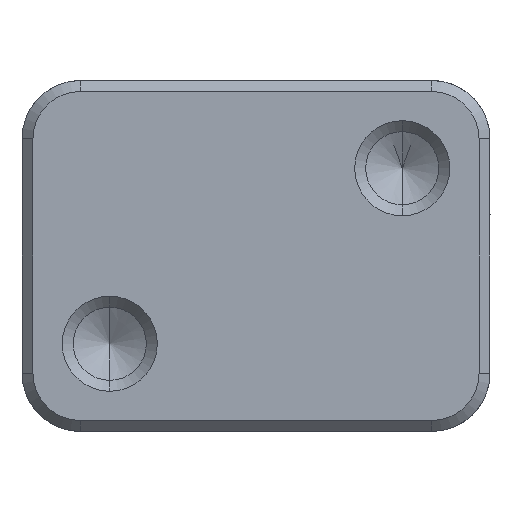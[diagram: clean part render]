
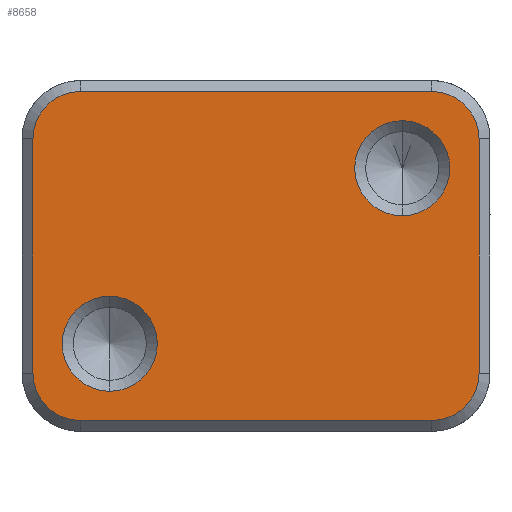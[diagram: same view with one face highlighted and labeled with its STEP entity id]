
A CAD part, front view. The second image highlights one B-rep face of the part: STEP entity #8658.
In plain terms, the highlighted planar face has unit normal (0, -1, 0).
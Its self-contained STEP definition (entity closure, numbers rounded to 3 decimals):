
#332 = CIRCLE ( 'NONE', #8281, 3.25 ) ;
#339 = EDGE_CURVE ( 'NONE', #8744, #4176, #7940, .T. ) ;
#378 = VERTEX_POINT ( 'NONE', #8139 ) ;
#768 = FACE_OUTER_BOUND ( 'NONE', #4568, .T. ) ;
#775 = AXIS2_PLACEMENT_3D ( 'NONE', #13131, #8292, #4944 ) ;
#778 = ORIENTED_EDGE ( 'NONE', *, *, #10677, .T. ) ;
#966 = DIRECTION ( 'NONE',  ( 0., -1., 0. ) ) ;
#987 = AXIS2_PLACEMENT_3D ( 'NONE', #7156, #13208, #12064 ) ;
#1023 = ORIENTED_EDGE ( 'NONE', *, *, #12797, .F. ) ;
#1318 = ORIENTED_EDGE ( 'NONE', *, *, #7060, .T. ) ;
#1371 = VERTEX_POINT ( 'NONE', #9253 ) ;
#1410 = VECTOR ( 'NONE', #12435, 1000. ) ;
#1660 = VERTEX_POINT ( 'NONE', #8971 ) ;
#1698 = EDGE_CURVE ( 'NONE', #1371, #5550, #9986, .T. ) ;
#1770 = VERTEX_POINT ( 'NONE', #4887 ) ;
#1799 = CARTESIAN_POINT ( 'NONE',  ( 10., 0., 9.245 ) ) ;
#1829 = VECTOR ( 'NONE', #8480, 1000. ) ;
#1840 = VECTOR ( 'NONE', #7477, 1000. ) ;
#1928 = DIRECTION ( 'NONE',  ( 0., 1., 0. ) ) ;
#1988 = EDGE_CURVE ( 'NONE', #1660, #4949, #8678, .T. ) ;
#2245 = CIRCLE ( 'NONE', #13177, 3.25 ) ;
#2248 = LINE ( 'NONE', #4395, #1829 ) ;
#2319 = CARTESIAN_POINT ( 'NONE',  ( 15.25, 0., -12.006 ) ) ;
#2333 = VERTEX_POINT ( 'NONE', #4199 ) ;
#2336 = ORIENTED_EDGE ( 'NONE', *, *, #11011, .F. ) ;
#2397 = CARTESIAN_POINT ( 'NONE',  ( 12., 0., 11.245 ) ) ;
#2455 = DIRECTION ( 'NONE',  ( 0., 0., 1. ) ) ;
#2734 = ORIENTED_EDGE ( 'NONE', *, *, #8275, .T. ) ;
#3436 = ORIENTED_EDGE ( 'NONE', *, *, #12772, .T. ) ;
#3847 = CARTESIAN_POINT ( 'NONE',  ( 12., 0., -11.256 ) ) ;
#3861 = DIRECTION ( 'NONE',  ( 0., -1., 0. ) ) ;
#4176 = VERTEX_POINT ( 'NONE', #2397 ) ;
#4199 = CARTESIAN_POINT ( 'NONE',  ( -10., 0., -2.756 ) ) ;
#4225 = CARTESIAN_POINT ( 'NONE',  ( -15.25, 0., -12.006 ) ) ;
#4381 = CIRCLE ( 'NONE', #6093, 3.25 ) ;
#4395 = CARTESIAN_POINT ( 'NONE',  ( -16., 0., -11.256 ) ) ;
#4568 = EDGE_LOOP ( 'NONE', ( #7560, #7494, #2336, #1023, #3436, #8953, #10039, #2734 ) ) ;
#4618 = AXIS2_PLACEMENT_3D ( 'NONE', #10392, #1928, #5157 ) ;
#4887 = CARTESIAN_POINT ( 'NONE',  ( -10., 0., -9.256 ) ) ;
#4944 = DIRECTION ( 'NONE',  ( 0., 0., -1. ) ) ;
#4949 = VERTEX_POINT ( 'NONE', #1799 ) ;
#5157 = DIRECTION ( 'NONE',  ( 0., 0., -1. ) ) ;
#5278 = DIRECTION ( 'NONE',  ( 0., 1., 0. ) ) ;
#5342 = LINE ( 'NONE', #2319, #1840 ) ;
#5550 = VERTEX_POINT ( 'NONE', #10973 ) ;
#5861 = DIRECTION ( 'NONE',  ( 1., 0., 0. ) ) ;
#6072 = CARTESIAN_POINT ( 'NONE',  ( 15.25, 0., 7.995 ) ) ;
#6093 = AXIS2_PLACEMENT_3D ( 'NONE', #13143, #10261, #7966 ) ;
#6478 = CARTESIAN_POINT ( 'NONE',  ( 12., 0., -8.006 ) ) ;
#6561 = VERTEX_POINT ( 'NONE', #13287 ) ;
#6746 = EDGE_CURVE ( 'NONE', #4176, #6561, #11311, .T. ) ;
#6752 = AXIS2_PLACEMENT_3D ( 'NONE', #6875, #3861, #5861 ) ;
#6811 = FACE_BOUND ( 'NONE', #6872, .T. ) ;
#6872 = EDGE_LOOP ( 'NONE', ( #10467, #778 ) ) ;
#6875 = CARTESIAN_POINT ( 'NONE',  ( -16., 0., -12.006 ) ) ;
#7060 = EDGE_CURVE ( 'NONE', #1770, #2333, #10640, .T. ) ;
#7093 = DIRECTION ( 'NONE',  ( 0., -1., 0. ) ) ;
#7156 = CARTESIAN_POINT ( 'NONE',  ( -12., 0., -8.006 ) ) ;
#7200 = CARTESIAN_POINT ( 'NONE',  ( 12., 0., 7.995 ) ) ;
#7205 = CARTESIAN_POINT ( 'NONE',  ( -16., 0., 11.245 ) ) ;
#7329 = DIRECTION ( 'NONE',  ( 0., 0., 1. ) ) ;
#7477 = DIRECTION ( 'NONE',  ( 0., 0., 1. ) ) ;
#7494 = ORIENTED_EDGE ( 'NONE', *, *, #1698, .F. ) ;
#7505 = AXIS2_PLACEMENT_3D ( 'NONE', #7200, #966, #7329 ) ;
#7560 = ORIENTED_EDGE ( 'NONE', *, *, #11643, .T. ) ;
#7610 = VECTOR ( 'NONE', #12532, 1000. ) ;
#7809 = PLANE ( 'NONE',  #6752 ) ;
#7940 = CIRCLE ( 'NONE', #7505, 3.25 ) ;
#7966 = DIRECTION ( 'NONE',  ( 0., 0., -1. ) ) ;
#8139 = CARTESIAN_POINT ( 'NONE',  ( 15.25, 0., -8.006 ) ) ;
#8195 = DIRECTION ( 'NONE',  ( 0., 1., 0. ) ) ;
#8275 = EDGE_CURVE ( 'NONE', #6561, #12072, #2245, .T. ) ;
#8281 = AXIS2_PLACEMENT_3D ( 'NONE', #6478, #5278, #2455 ) ;
#8292 = DIRECTION ( 'NONE',  ( 0., 1., 0. ) ) ;
#8480 = DIRECTION ( 'NONE',  ( -1., 0., 0. ) ) ;
#8658 = ADVANCED_FACE ( 'NONE', ( #11045, #768, #6811 ), #7809, .T. ) ;
#8678 = CIRCLE ( 'NONE', #4618, 3.25 ) ;
#8744 = VERTEX_POINT ( 'NONE', #6072 ) ;
#8953 = ORIENTED_EDGE ( 'NONE', *, *, #339, .T. ) ;
#8971 = CARTESIAN_POINT ( 'NONE',  ( 10., 0., 2.745 ) ) ;
#9016 = VERTEX_POINT ( 'NONE', #3847 ) ;
#9253 = CARTESIAN_POINT ( 'NONE',  ( -12., 0., -11.256 ) ) ;
#9986 = CIRCLE ( 'NONE', #987, 3.25 ) ;
#10039 = ORIENTED_EDGE ( 'NONE', *, *, #6746, .T. ) ;
#10179 = ORIENTED_EDGE ( 'NONE', *, *, #12515, .T. ) ;
#10260 = CARTESIAN_POINT ( 'NONE',  ( -12., 0., 7.995 ) ) ;
#10261 = DIRECTION ( 'NONE',  ( 0., 1., 0. ) ) ;
#10392 = CARTESIAN_POINT ( 'NONE',  ( 10., 0., 5.995 ) ) ;
#10467 = ORIENTED_EDGE ( 'NONE', *, *, #1988, .T. ) ;
#10483 = CARTESIAN_POINT ( 'NONE',  ( -10., 0., -6.006 ) ) ;
#10640 = CIRCLE ( 'NONE', #11295, 3.25 ) ;
#10677 = EDGE_CURVE ( 'NONE', #4949, #1660, #4381, .T. ) ;
#10973 = CARTESIAN_POINT ( 'NONE',  ( -15.25, 0., -8.006 ) ) ;
#11011 = EDGE_CURVE ( 'NONE', #9016, #1371, #2248, .T. ) ;
#11045 = FACE_BOUND ( 'NONE', #11798, .T. ) ;
#11295 = AXIS2_PLACEMENT_3D ( 'NONE', #10483, #8195, #12289 ) ;
#11311 = LINE ( 'NONE', #7205, #1410 ) ;
#11643 = EDGE_CURVE ( 'NONE', #12072, #5550, #12667, .T. ) ;
#11798 = EDGE_LOOP ( 'NONE', ( #1318, #10179 ) ) ;
#12064 = DIRECTION ( 'NONE',  ( 0., 0., 1. ) ) ;
#12072 = VERTEX_POINT ( 'NONE', #12367 ) ;
#12289 = DIRECTION ( 'NONE',  ( 0., 0., -1. ) ) ;
#12367 = CARTESIAN_POINT ( 'NONE',  ( -15.25, 0., 7.995 ) ) ;
#12395 = DIRECTION ( 'NONE',  ( -1., 0., 0. ) ) ;
#12435 = DIRECTION ( 'NONE',  ( -1., 0., 0. ) ) ;
#12515 = EDGE_CURVE ( 'NONE', #2333, #1770, #12994, .T. ) ;
#12532 = DIRECTION ( 'NONE',  ( 0., 0., -1. ) ) ;
#12667 = LINE ( 'NONE', #4225, #7610 ) ;
#12772 = EDGE_CURVE ( 'NONE', #378, #8744, #5342, .T. ) ;
#12797 = EDGE_CURVE ( 'NONE', #378, #9016, #332, .T. ) ;
#12994 = CIRCLE ( 'NONE', #775, 3.25 ) ;
#13131 = CARTESIAN_POINT ( 'NONE',  ( -10., 0., -6.006 ) ) ;
#13143 = CARTESIAN_POINT ( 'NONE',  ( 10., 0., 5.995 ) ) ;
#13177 = AXIS2_PLACEMENT_3D ( 'NONE', #10260, #7093, #12395 ) ;
#13208 = DIRECTION ( 'NONE',  ( 0., 1., 0. ) ) ;
#13287 = CARTESIAN_POINT ( 'NONE',  ( -12., 0., 11.245 ) ) ;
